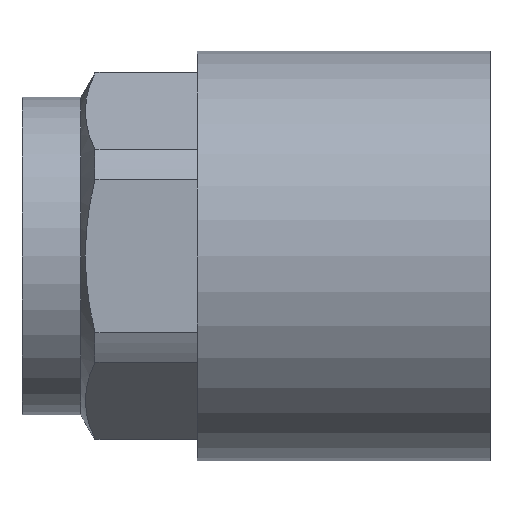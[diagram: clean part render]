
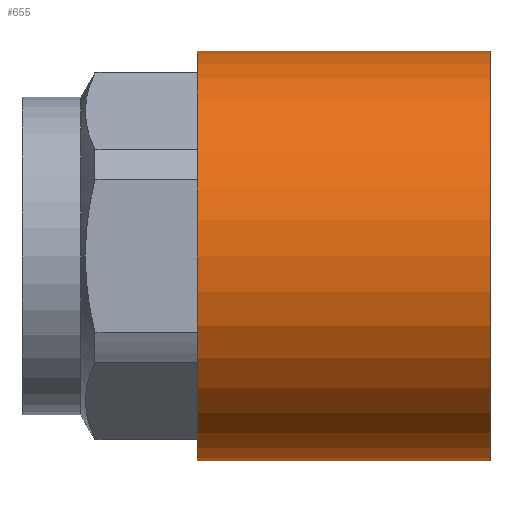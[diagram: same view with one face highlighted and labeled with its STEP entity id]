
A CAD part, front view. The second image highlights one B-rep face of the part: STEP entity #655.
In plain terms, the highlighted cylindrical face has radius 12.25 mm (diameter 24.5 mm), a full revolution.
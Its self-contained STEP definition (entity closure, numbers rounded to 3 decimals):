
#503=CARTESIAN_POINT('',(28.0,12.25,0.0));
#504=VERTEX_POINT('',#503);
#505=CARTESIAN_POINT('',(28.0,0.0,0.0));
#506=DIRECTION('',(1.0,0.0,0.0));
#507=DIRECTION('',(0.0,1.0,0.0));
#508=AXIS2_PLACEMENT_3D('',#505,#506,#507);
#509=CIRCLE('',#508,12.25);
#510=EDGE_CURVE('',#504,#504,#509,.T.);
#618=CARTESIAN_POINT('',(10.5,12.25,0.0));
#619=VERTEX_POINT('',#618);
#620=CARTESIAN_POINT('',(10.5,0.0,0.0));
#621=DIRECTION('',(1.0,0.0,0.0));
#622=DIRECTION('',(0.0,1.0,0.0));
#623=AXIS2_PLACEMENT_3D('',#620,#621,#622);
#624=CIRCLE('',#623,12.25);
#625=EDGE_CURVE('',#619,#619,#624,.T.);
#644=CARTESIAN_POINT('',(19.25,0.0,0.0));
#645=DIRECTION('',(1.0,0.0,0.0));
#646=DIRECTION('',(0.0,1.0,0.0));
#647=AXIS2_PLACEMENT_3D('',#644,#645,#646);
#648=CYLINDRICAL_SURFACE('',#647,12.25);
#649=ORIENTED_EDGE('',*,*,#510,.F.);
#650=EDGE_LOOP('',(#649));
#651=FACE_OUTER_BOUND('',#650,.T.);
#652=ORIENTED_EDGE('',*,*,#625,.T.);
#653=EDGE_LOOP('',(#652));
#654=FACE_BOUND('',#653,.T.);
#655=ADVANCED_FACE('',(#651,#654),#648,.T.);
